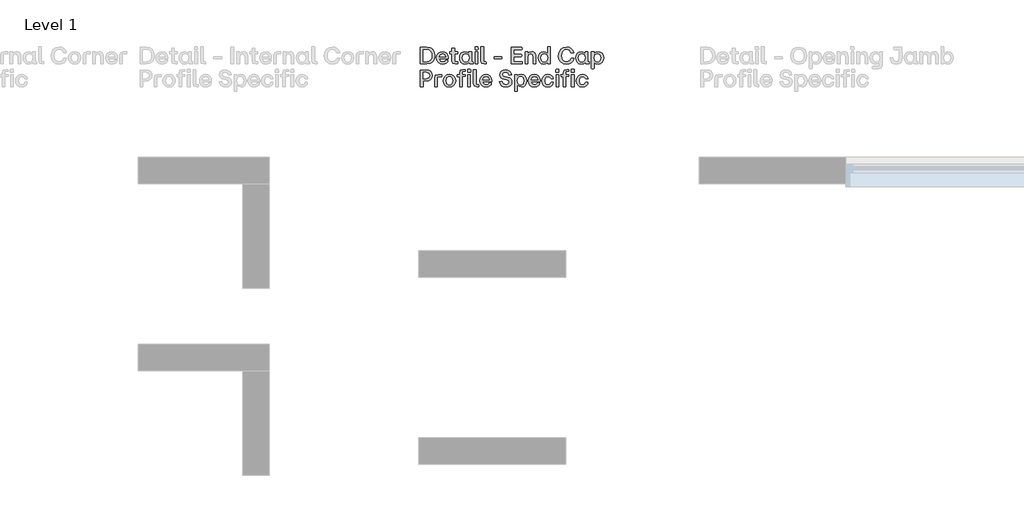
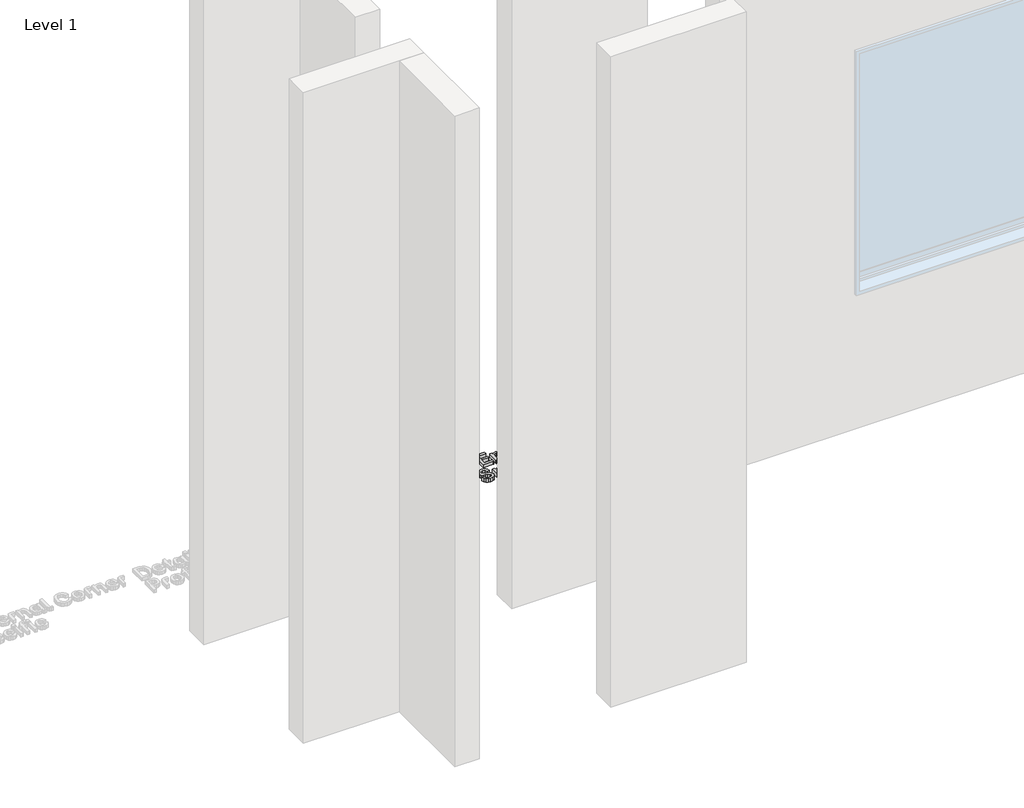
# One storey, part 42 of 64: 1 proxy.
"""IFC4 building model written with IfcOpenShell, lengths in millimetres."""

from ifc_helpers import new_model, si_unit, origin, origin_with_axes, place, context, project, spatial, polyline, outline, extrude, element, save

model = new_model("IFC4")

# Units and contexts
model_context = context("Model", 3, world=origin())
ifc_project = project(units=[si_unit("LENGTHUNIT", "METRE", prefix="MILLI")], contexts=[model_context])

# Site, building, storey
site = spatial("IfcSite", under=ifc_project)
building = spatial("IfcBuilding", under=site)
storey = spatial("IfcBuildingStorey", under=building, Name="Level 1", Elevation=0.0)

# Proxy
placement = place(None, origin())
element("IfcBuildingElementProxy", 1, Name="90mm", ObjectType="90mm", at=placement, inside=storey, context=model_context, shape_type="SweptSolid", body=[
    extrude(outline(polyline([(12110.2926176, -1500.0), (12108.9872124, -1498.7448027), (12108.9872124, -1411.3077612), (12142.5511873, -1410.002356), (12160.5475781, -1413.0054155), (12174.1193986, -1422.0145938), (12182.63905, -1436.3583606), (12185.4789338, -1455.3651852), (12182.648464, -1474.2025582), (12174.1570545, -1488.2890095), (12160.594648, -1497.0722524), (12142.5511873, -1500.0), (12110.2926176, -1500.0)]), holes=[polyline([(12123.7985402, -1487.3727155), (12141.6725492, -1487.3727155), (12153.8950326, -1485.311054), (12162.9481429, -1479.1260695), (12168.5494607, -1469.0625254), (12170.4165666, -1455.3651852), (12168.5431847, -1441.5109454), (12162.923039, -1431.1775339), (12153.8636527, -1424.7477859), (12141.6725492, -1422.6045366), (12123.7985402, -1422.6045366), (12123.7985402, -1487.3727155)])]), origin_with_axes(), (0.0, 0.0, 1.0), 20.0),
    extrude(outline(polyline([(12227.628458, -1500.7531184), (12214.0409476, -1498.4843493), (12203.5035666, -1491.6780421), (12196.7443293, -1481.0622112), (12194.4912502, -1467.3648711), (12196.7349153, -1453.5012173), (12203.4659107, -1442.7881086), (12213.9938777, -1435.9347315), (12227.628458, -1433.6502725), (12240.1584647, -1435.9033516), (12249.7324819, -1442.6625889), (12255.8044987, -1453.3129377), (12257.8285043, -1467.2393514), (12257.8285043, -1470.6785919), (12256.573307, -1472.009101), (12209.1268503, -1472.009101), (12214.6497183, -1484.6865934), (12227.628458, -1489.2053035), (12238.0465953, -1486.9082925), (12243.4439436, -1480.4691305), (12244.8246606, -1479.4147648), (12256.1967478, -1479.4147648), (12254.1633282, -1488.7314665), (12247.8120301, -1495.1925945), (12238.8248176, -1499.3629874), (12227.628458, -1500.7531184)]), holes=[polyline([(12209.2523701, -1461.5909637), (12243.8205028, -1461.5909637), (12239.0633051, -1449.6289337), (12227.628458, -1445.2733992), (12214.8631018, -1449.4155502), (12209.2523701, -1461.5909637)])]), origin_with_axes(), (0.0, 0.0, 1.0), 20.0),
    extrude(outline(polyline([(12296.6140998, -1500.0), (12282.731618, -1495.2302504), (12277.9618684, -1481.3477686), (12277.9618684, -1445.7754781), (12266.7906127, -1445.7754781), (12265.4852076, -1435.7339), (12266.7906127, -1434.4787027), (12277.9618684, -1434.4787027), (12277.9618684, -1416.45407), (12279.2170657, -1415.1486648), (12290.9657121, -1415.1486648), (12292.2209094, -1416.45407), (12292.2209094, -1434.4787027), (12308.0363949, -1434.4787027), (12309.3418001, -1435.7339), (12309.3418001, -1444.444969), (12292.2209094, -1445.7754781), (12292.2209094, -1488.7032246), (12308.0363949, -1488.7032246), (12309.3418001, -1489.9584219), (12309.3418001, -1498.7448027), (12308.0363949, -1500.0), (12296.6140998, -1500.0)])), origin_with_axes(), (0.0, 0.0, 1.0), 20.0),
    extrude(outline(polyline([(12347.2738615, -1500.7531184), (12335.3243835, -1498.4843493), (12326.0861316, -1491.6780421), (12320.1741525, -1481.0622112), (12318.2034928, -1467.3648711), (12320.1741525, -1453.5325972), (12326.0861316, -1442.8132125), (12335.3243835, -1435.9410075), (12347.2738615, -1433.6502725), (12359.1856835, -1436.5372262), (12368.160344, -1444.444969), (12368.7377347, -1435.7339), (12369.992932, -1434.4787027), (12381.6662665, -1434.4787027), (12382.9716717, -1435.7339), (12382.9716717, -1488.7032246), (12390.0760882, -1488.7032246), (12391.3312855, -1489.9584219), (12391.3312855, -1498.7448027), (12390.0760882, -1500.0), (12380.536589, -1500.0), (12372.1581473, -1497.6465051), (12369.3653333, -1490.5860205), (12359.7254183, -1497.8661646), (12347.2738615, -1500.7531184)]), holes=[polyline([(12332.7135732, -1467.3648711), (12337.6716024, -1483.3686362), (12343.5365116, -1487.7461367), (12351.2151809, -1489.2053035), (12358.7714684, -1487.7524127), (12364.470064, -1483.3937402), (12369.2398136, -1467.3648711), (12364.4324081, -1451.1728263), (12358.7243985, -1446.748256), (12351.2151809, -1445.2733992), (12343.5365116, -1446.748256), (12337.6716024, -1451.1728263), (12332.7135732, -1467.3648711)])]), origin_with_axes(), (0.0, 0.0, 1.0), 20.0),
    extrude(outline(polyline([(12403.6824266, -1500.0), (12402.3770214, -1498.7448027), (12402.3770214, -1435.7339), (12403.6824266, -1434.4787027), (12415.3557612, -1434.4787027), (12416.6109584, -1435.7339), (12416.6109584, -1498.7448027), (12415.3557612, -1500.0), (12403.6824266, -1500.0)])), origin_with_axes(), (0.0, 0.0, 1.0), 20.0),
    extrude(outline(polyline([(12401.3728636, -1421.8514182), (12401.3728636, -1407.9940404), (12402.6280609, -1406.6635313), (12416.4854387, -1406.6635313), (12417.8159478, -1421.8514182), (12416.4854387, -1423.1066155), (12402.6280609, -1423.1066155), (12401.3728636, -1421.8514182)])), origin_with_axes(), (0.0, 0.0, 1.0), 20.0),
    extrude(outline(polyline([(12451.5305464, -1500.0), (12437.6731686, -1495.2302504), (12432.903419, -1481.3477686), (12432.903419, -1408.7471587), (12445.8821587, -1407.4166496), (12447.137356, -1408.7471587), (12447.137356, -1488.7032246), (12459.1370418, -1488.7032246), (12460.3922391, -1489.9584219), (12460.3922391, -1498.7448027), (12459.1370418, -1500.0), (12451.5305464, -1500.0)])), origin_with_axes(), (0.0, 0.0, 1.0), 20.0),
    extrude(outline(polyline([(12505.1776775, -1472.887739), (12503.9224803, -1471.5572299), (12503.9224803, -1461.5909637), (12505.1776775, -1460.2604546), (12543.7875455, -1460.2604546), (12545.0427427, -1461.5909637), (12545.0427427, -1471.5572299), (12543.7875455, -1472.887739), (12505.1776775, -1472.887739)])), origin_with_axes(), (0.0, 0.0, 1.0), 20.0),
    extrude(outline(polyline([(12595.5016728, -1500.0), (12594.1962677, -1498.7448027), (12594.1962677, -1411.3077612), (12652.3119011, -1410.002356), (12653.6173063, -1421.3493393), (12652.3119011, -1422.6045366), (12609.0075954, -1422.6045366), (12609.0075954, -1448.4616002), (12649.7261947, -1448.4616002), (12651.0567038, -1449.7167975), (12651.0567038, -1459.7583756), (12649.7261947, -1461.0135729), (12609.0075954, -1461.0135729), (12609.0075954, -1487.3727155), (12653.6173063, -1487.3727155), (12654.8725035, -1488.7032246), (12654.8725035, -1498.7448027), (12653.6173063, -1500.0), (12595.5016728, -1500.0)])), origin_with_axes(), (0.0, 0.0, 1.0), 20.0),
    extrude(outline(polyline([(12670.3867417, -1500.0), (12669.0813366, -1498.7448027), (12669.0813366, -1435.7339), (12670.3867417, -1434.4787027), (12681.4324777, -1434.4787027), (12682.6876749, -1435.7339), (12682.6876749, -1444.444969), (12691.9824107, -1436.3489466), (12703.9005087, -1433.6502725), (12713.8259811, -1435.5330684), (12721.1092633, -1441.1814561), (12725.5809035, -1450.4573639), (12727.0714503, -1463.2227201), (12727.0714503, -1498.7448027), (12725.7409412, -1500.0), (12714.0676066, -1500.0), (12712.7622014, -1498.7448027), (12712.7622014, -1463.2227201), (12709.2476491, -1449.942733), (12698.1391533, -1445.7754781), (12686.9302417, -1450.0054929), (12683.3152736, -1463.2227201), (12683.3152736, -1498.7448027), (12682.0600763, -1500.0), (12670.3867417, -1500.0)])), origin_with_axes(), (0.0, 0.0, 1.0), 20.0),
    extrude(outline(polyline([(12768.2168167, -1500.7531184), (12756.2673387, -1498.4843493), (12747.0290868, -1491.6780421), (12741.1171077, -1481.0622112), (12739.146448, -1467.3648711), (12741.1171077, -1453.5325972), (12747.0290868, -1442.8132125), (12756.2673387, -1435.9410075), (12768.2168167, -1433.6502725), (12780.1286387, -1436.5372262), (12789.1032992, -1444.444969), (12789.6806899, -1408.7471587), (12790.9358872, -1407.4166496), (12802.6092218, -1407.4166496), (12803.9146269, -1498.7448027), (12802.6092218, -1500.0), (12791.5634858, -1500.0), (12790.3082886, -1498.7448027), (12790.3082886, -1490.0839416), (12780.6683735, -1497.8661646), (12768.2168167, -1500.7531184)]), holes=[polyline([(12753.6565284, -1467.3648711), (12758.6145576, -1483.3686362), (12764.4794668, -1487.7461367), (12772.1581361, -1489.2053035), (12779.7144236, -1487.7524127), (12785.4130192, -1483.3937402), (12790.1827688, -1467.3648711), (12785.3753633, -1451.1728263), (12779.6673537, -1446.748256), (12772.1581361, -1445.2733992), (12764.4794668, -1446.748256), (12758.6145576, -1451.1728263), (12753.6565284, -1467.3648711)])]), origin_with_axes(), (0.0, 0.0, 1.0), 20.0),
    extrude(outline(polyline([(12891.100629, -1500.7531184), (12873.0885483, -1497.6684711), (12859.2186185, -1488.4145292), (12850.3694777, -1473.8887589), (12847.4197642, -1454.988626), (12850.3945817, -1436.4054305), (12859.3190343, -1421.8263143), (12873.214068, -1412.3935068), (12891.100629, -1409.2492376), (12905.0490087, -1411.3265891), (12916.6187895, -1417.5586436), (12924.9376093, -1427.2424905), (12929.1331062, -1439.6752194), (12915.9535349, -1441.1312482), (12914.52261, -1440.0015707), (12906.6587992, -1426.3889563), (12891.100629, -1421.8514182), (12879.176255, -1424.0731174), (12870.1137307, -1430.7382148), (12864.3900312, -1441.244216), (12862.4821314, -1454.988626), (12864.3806172, -1468.9464196), (12870.0760748, -1479.4398688), (12879.1291851, -1486.0108265), (12891.100629, -1488.2011457), (12906.9663225, -1483.7263674), (12915.4012481, -1470.3020327), (12916.832173, -1469.1221472), (12928.756547, -1469.1221472), (12925.5840359, -1482.8791093), (12917.1208684, -1492.4688164), (12905.362808, -1498.6820429), (12891.100629, -1500.7531184)])), origin_with_axes(), (0.0, 0.0, 1.0), 20.0),
    extrude(outline(polyline([(12969.0483793, -1500.7531184), (12957.0989013, -1498.4843493), (12947.8606494, -1491.6780421), (12941.9486703, -1481.0622112), (12939.9780106, -1467.3648711), (12941.9486703, -1453.5325972), (12947.8606494, -1442.8132125), (12957.0989013, -1435.9410075), (12969.0483793, -1433.6502725), (12980.9602013, -1436.5372262), (12989.9348618, -1444.444969), (12990.5122525, -1435.7339), (12991.7674498, -1434.4787027), (13003.4407844, -1434.4787027), (13004.7461895, -1435.7339), (13004.7461895, -1488.7032246), (13011.850606, -1488.7032246), (13013.1058033, -1489.9584219), (13013.1058033, -1498.7448027), (13011.850606, -1500.0), (13002.3111068, -1500.0), (12993.9326651, -1497.6465051), (12991.1398512, -1490.5860205), (12981.4999362, -1497.8661646), (12969.0483793, -1500.7531184)]), holes=[polyline([(12954.488091, -1467.3648711), (12959.4461202, -1483.3686362), (12965.3110294, -1487.7461367), (12972.9896987, -1489.2053035), (12980.5459862, -1487.7524127), (12986.2445818, -1483.3937402), (12991.0143314, -1467.3648711), (12986.2069259, -1451.1728263), (12980.4989163, -1446.748256), (12972.9896987, -1445.2733992), (12965.3110294, -1446.748256), (12959.4461202, -1451.1728263), (12954.488091, -1467.3648711)])]), origin_with_axes(), (0.0, 0.0, 1.0), 20.0),
    extrude(outline(polyline([(13025.4569444, -1524.4010349), (13024.1515393, -1523.1458376), (13024.1515393, -1435.7339), (13025.4569444, -1434.4787027), (13036.5026804, -1434.4787027), (13037.7578776, -1435.7339), (13037.7578776, -1444.3194493), (13047.3977926, -1436.5372262), (13059.8493495, -1433.6502725), (13071.7988275, -1435.9253176), (13081.0370794, -1442.7504527), (13086.9490585, -1453.3913875), (13088.9197182, -1467.1138316), (13086.9490585, -1480.9210016), (13081.0370794, -1491.6152823), (13071.7988275, -1498.4686593), (13059.8493495, -1500.7531184), (13047.9375275, -1497.8661646), (13038.962867, -1489.9584219), (13038.3854763, -1523.1458376), (13037.130279, -1524.4010349), (13025.4569444, -1524.4010349)]), holes=[polyline([(13037.8833974, -1467.1138316), (13042.6908029, -1483.3058764), (13048.3988125, -1487.7304467), (13055.9080301, -1489.2053035), (13063.5866994, -1487.7304467), (13069.4516086, -1483.3058764), (13074.4096378, -1467.1138316), (13069.4516086, -1451.1100665), (13063.5866994, -1446.732566), (13055.9080301, -1445.2733992), (13048.3517426, -1446.723152), (13042.653147, -1451.0724106), (13037.8833974, -1467.1138316)])]), origin_with_axes(), (0.0, 0.0, 1.0), 20.0),
    extrude(outline(polyline([(12110.2926176, -1622.13305), (12108.9872124, -1620.8778528), (12108.9872124, -1533.4408112), (12140.1161046, -1532.135406), (12154.0174144, -1534.0338919), (12164.3414119, -1539.7293495), (12170.7429179, -1548.9236695), (12172.8767533, -1561.3187425), (12170.7429179, -1573.7138155), (12164.3414119, -1582.9081354), (12154.0174144, -1588.603593), (12140.1161046, -1590.5020789), (12123.7985402, -1590.5020789), (12123.7985402, -1620.8778528), (12122.4680311, -1622.13305), (12110.2926176, -1622.13305)]), holes=[polyline([(12123.7985402, -1577.8747944), (12140.1161046, -1577.8747944), (12153.5969233, -1573.7954033), (12157.9901137, -1561.3061905), (12153.5969233, -1548.8169777), (12140.1161046, -1544.7375866), (12123.7985402, -1544.7375866), (12123.7985402, -1577.8747944)])]), origin_with_axes(), (0.0, 0.0, 1.0), 20.0),
    extrude(outline(polyline([(12186.1065325, -1622.13305), (12184.8513352, -1620.8778528), (12184.8513352, -1575.1886723), (12189.6210848, -1561.3438464), (12203.4784626, -1556.6117527), (12221.7541348, -1556.6117527), (12223.0093321, -1557.86695), (12223.0093321, -1567.4064492), (12221.7541348, -1568.6616465), (12199.0852722, -1568.6616465), (12199.0852722, -1620.8778528), (12197.8300749, -1622.13305), (12186.1065325, -1622.13305)])), origin_with_axes(), (0.0, 0.0, 1.0), 20.0),
    extrude(outline(polyline([(12264.2049064, -1622.8861684), (12250.9782652, -1620.5797434), (12240.519334, -1613.6604685), (12233.7130268, -1603.0069817), (12231.4442577, -1589.4979211), (12233.7193028, -1575.9009967), (12240.5444379, -1565.1345422), (12251.0096451, -1558.1211274), (12264.2049064, -1555.7833225), (12277.5570673, -1558.1211274), (12288.0913103, -1565.1345422), (12294.9352734, -1575.9009967), (12297.2165945, -1589.4979211), (12294.9352734, -1603.0069817), (12288.0913103, -1613.6604685), (12277.5570673, -1620.5797434), (12264.2049064, -1622.8861684)]), holes=[polyline([(12245.9543381, -1589.4979211), (12250.8119515, -1605.5267902), (12256.588997, -1609.8854627), (12264.2049064, -1611.3383535), (12271.9024036, -1609.8791867), (12277.7735888, -1605.5016862), (12282.731618, -1589.4979211), (12277.7986928, -1573.3058764), (12271.9337835, -1568.881306), (12264.2049064, -1567.4064492), (12256.588997, -1568.881306), (12250.8119515, -1573.3058764), (12245.9543381, -1589.4979211)])]), origin_with_axes(), (0.0, 0.0, 1.0), 20.0),
    extrude(outline(polyline([(12362.3111247, -1620.8778528), (12362.3111247, -1557.86695), (12363.6416338, -1556.6117527), (12375.3149684, -1556.6117527), (12376.6203735, -1557.86695), (12376.6203735, -1620.8778528), (12375.3149684, -1622.13305), (12363.6416338, -1622.13305), (12362.3111247, -1620.8778528)])), origin_with_axes(), (0.0, 0.0, 1.0), 20.0),
    extrude(outline(polyline([(12319.3833782, -1622.13305), (12318.1281809, -1620.8778528), (12318.1281809, -1567.9085281), (12306.9569253, -1567.9085281), (12305.6515201, -1557.86695), (12306.9569253, -1556.6117527), (12318.1281809, -1556.6117527), (12318.1281809, -1548.201931), (12322.8979305, -1534.3194493), (12336.7804123, -1529.5496997), (12348.2027074, -1529.5496997), (12349.5081126, -1539.5912778), (12332.3872219, -1540.9217869), (12332.3872219, -1556.6117527), (12348.2027074, -1556.6117527), (12349.5081126, -1557.86695), (12349.5081126, -1566.578019), (12332.3872219, -1567.9085281), (12332.3872219, -1620.8778528), (12331.1320246, -1622.13305), (12319.3833782, -1622.13305)])), origin_with_axes(), (0.0, 0.0, 1.0), 20.0),
    extrude(outline(polyline([(12361.3069669, -1543.9844682), (12361.3069669, -1530.1270904), (12362.5621642, -1528.7965813), (12376.4948538, -1528.7965813), (12377.7500511, -1530.1270904), (12377.7500511, -1543.9844682), (12376.4948538, -1545.2396655), (12362.5621642, -1545.2396655), (12361.3069669, -1543.9844682)])), origin_with_axes(), (0.0, 0.0, 1.0), 20.0),
    extrude(outline(polyline([(12411.3642339, -1622.13305), (12397.506856, -1617.3633004), (12392.7371064, -1603.4808186), (12392.7371064, -1530.8802088), (12405.7158462, -1529.5496997), (12406.9710434, -1530.8802088), (12406.9710434, -1610.8362746), (12418.9707293, -1610.8362746), (12420.2259266, -1612.0914719), (12420.2259266, -1620.8778528), (12418.9707293, -1622.13305), (12411.3642339, -1622.13305)])), origin_with_axes(), (0.0, 0.0, 1.0), 20.0),
    extrude(outline(polyline([(12460.5930707, -1622.8861684), (12447.0055602, -1620.6173993), (12436.4681792, -1613.8110921), (12429.7089419, -1603.1952613), (12427.4558628, -1589.4979211), (12429.6995279, -1575.6342673), (12436.4305233, -1564.9211586), (12446.9584903, -1558.0677815), (12460.5930707, -1555.7833225), (12473.1230774, -1558.0364016), (12482.6970945, -1564.7956389), (12488.7691113, -1575.4459877), (12490.7931169, -1589.3724014), (12490.7931169, -1592.8116419), (12489.5379196, -1594.142151), (12442.0914629, -1594.142151), (12447.6143309, -1606.8196434), (12460.5930707, -1611.3383535), (12471.011208, -1609.0413425), (12476.4085562, -1602.6021806), (12477.7892732, -1601.5478148), (12489.1613604, -1601.5478148), (12487.1279409, -1610.8645166), (12480.7766427, -1617.3256445), (12471.7894303, -1621.4960374), (12460.5930707, -1622.8861684)]), holes=[polyline([(12442.2169827, -1583.7240137), (12476.7851154, -1583.7240137), (12472.0279177, -1571.7619837), (12460.5930707, -1567.4064492), (12447.8277145, -1571.5486002), (12442.2169827, -1583.7240137)])]), origin_with_axes(), (0.0, 0.0, 1.0), 20.0),
    extrude(outline(polyline([(12566.8831752, -1622.8861684), (12553.1136611, -1621.0347524), (12542.4319324, -1615.4805045), (12535.1706162, -1606.5058441), (12531.6623399, -1594.3931904), (12544.917223, -1592.9371616), (12546.2226282, -1594.142151), (12552.4107507, -1606.6941236), (12566.8831752, -1610.5852352), (12579.3974919, -1607.007923), (12583.8785461, -1597.0793126), (12580.7782089, -1588.8326665), (12570.3977275, -1584.7281715), (12558.5235614, -1582.644544), (12547.5186193, -1579.3904451), (12539.6579465, -1574.0715467), (12534.9415427, -1566.6878488), (12533.3694082, -1557.2393514), (12535.3839998, -1546.397585), (12541.4277746, -1538.2231128), (12551.0802416, -1533.0924939), (12563.9209096, -1531.3822877), (12576.6548859, -1533.1144599), (12586.5897722, -1538.3109766), (12593.3803895, -1546.6643144), (12596.6815583, -1557.86695), (12583.501987, -1559.2978749), (12582.0710621, -1557.86695), (12576.2594987, -1547.1601173), (12563.9209096, -1543.7334288), (12552.1597112, -1546.8714219), (12548.1054241, -1556.034362), (12551.7203922, -1564.732879), (12563.0422715, -1569.2892451), (12574.8411258, -1571.3477686), (12585.6609263, -1574.5171417), (12593.0163822, -1579.6069666), (12597.2338451, -1586.9373187), (12598.639666, -1596.8282731), (12596.5277966, -1607.7422134), (12590.1921884, -1615.9825834), (12580.1411963, -1621.1602721), (12566.8831752, -1622.8861684)])), origin_with_axes(), (0.0, 0.0, 1.0), 20.0),
    extrude(outline(polyline([(12614.1539042, -1646.5340849), (12612.848499, -1645.2788876), (12612.848499, -1557.86695), (12614.1539042, -1556.6117527), (12625.1996401, -1556.6117527), (12626.4548374, -1557.86695), (12626.4548374, -1566.4524993), (12636.0947524, -1558.6702762), (12648.5463093, -1555.7833225), (12660.4957873, -1558.0583676), (12669.7340392, -1564.8835027), (12675.6460183, -1575.5244375), (12677.616678, -1589.2468816), (12675.6460183, -1603.0540516), (12669.7340392, -1613.7483323), (12660.4957873, -1620.6017094), (12648.5463093, -1622.8861684), (12636.6344872, -1619.9992147), (12627.6598268, -1612.0914719), (12627.082436, -1645.2788876), (12625.8272388, -1646.5340849), (12614.1539042, -1646.5340849)]), holes=[polyline([(12626.5803571, -1589.2468816), (12631.3877627, -1605.4389264), (12637.0957722, -1609.8634967), (12644.6049899, -1611.3383535), (12652.2836592, -1609.8634967), (12658.1485684, -1605.4389264), (12663.1065976, -1589.2468816), (12658.1485684, -1573.2431165), (12652.2836592, -1568.865616), (12644.6049899, -1567.4064492), (12637.0487023, -1568.856202), (12631.3501068, -1573.2054606), (12626.5803571, -1589.2468816)])]), origin_with_axes(), (0.0, 0.0, 1.0), 20.0),
    extrude(outline(polyline([(12719.2641233, -1622.8861684), (12705.6766129, -1620.6173993), (12695.1392318, -1613.8110921), (12688.3799945, -1603.1952613), (12686.1269155, -1589.4979211), (12688.3705806, -1575.6342673), (12695.1015759, -1564.9211586), (12705.629543, -1558.0677815), (12719.2641233, -1555.7833225), (12731.79413, -1558.0364016), (12741.3681471, -1564.7956389), (12747.4401639, -1575.4459877), (12749.4641695, -1589.3724014), (12749.4641695, -1592.8116419), (12748.2089722, -1594.142151), (12700.7625156, -1594.142151), (12706.2853836, -1606.8196434), (12719.2641233, -1611.3383535), (12729.6822606, -1609.0413425), (12735.0796088, -1602.6021806), (12736.4603258, -1601.5478148), (12747.8324131, -1601.5478148), (12745.7989935, -1610.8645166), (12739.4476953, -1617.3256445), (12730.4604829, -1621.4960374), (12719.2641233, -1622.8861684)]), holes=[polyline([(12700.8880353, -1583.7240137), (12735.456168, -1583.7240137), (12730.6989704, -1571.7619837), (12719.2641233, -1567.4064492), (12706.4987671, -1571.5486002), (12700.8880353, -1583.7240137)])]), origin_with_axes(), (0.0, 0.0, 1.0), 20.0),
    extrude(outline(polyline([(12791.4379661, -1622.8861684), (12777.9445955, -1620.6173993), (12767.4385944, -1613.8110921), (12760.6793571, -1603.1952613), (12758.426278, -1589.4979211), (12760.710737, -1575.9009967), (12767.5641141, -1565.1345422), (12778.1014951, -1558.1211274), (12791.4379661, -1555.7833225), (12802.4209422, -1557.3303532), (12811.3704987, -1561.971445), (12817.6841409, -1569.1543114), (12820.7593742, -1578.3266654), (12808.1320897, -1579.7073824), (12801.7054797, -1570.1678832), (12791.4379661, -1567.4064492), (12783.680847, -1568.881306), (12777.8316277, -1573.3058764), (12772.9363584, -1589.4979211), (12777.8567317, -1605.5644461), (12783.7122269, -1609.8948767), (12791.4379661, -1611.3383535), (12802.019279, -1608.7024393), (12807.3789714, -1600.1670979), (12808.7596884, -1598.9621085), (12820.1317756, -1598.9621085), (12818.12346, -1609.4712476), (12811.7470579, -1616.6980459), (12802.7033616, -1621.3391377), (12791.4379661, -1622.8861684)])), origin_with_axes(), (0.0, 0.0, 1.0), 20.0),
    extrude(outline(polyline([(12835.8719493, -1622.13305), (12834.5665442, -1620.8778528), (12834.5665442, -1557.86695), (12835.8719493, -1556.6117527), (12847.5452839, -1556.6117527), (12848.8004812, -1557.86695), (12848.8004812, -1620.8778528), (12847.5452839, -1622.13305), (12835.8719493, -1622.13305)])), origin_with_axes(), (0.0, 0.0, 1.0), 20.0),
    extrude(outline(polyline([(12833.5623863, -1543.9844682), (12833.5623863, -1530.1270904), (12834.8175836, -1528.7965813), (12848.6749614, -1528.7965813), (12850.0054705, -1543.9844682), (12848.6749614, -1545.2396655), (12834.8175836, -1545.2396655), (12833.5623863, -1543.9844682)])), origin_with_axes(), (0.0, 0.0, 1.0), 20.0),
    extrude(outline(polyline([(12873.678491, -1622.13305), (12872.4232937, -1620.8778528), (12872.4232937, -1567.9085281), (12861.252038, -1567.9085281), (12859.9466329, -1557.86695), (12861.252038, -1556.6117527), (12872.4232937, -1556.6117527), (12872.4232937, -1548.201931), (12877.1930433, -1534.3194493), (12891.0755251, -1529.5496997), (12902.4978202, -1529.5496997), (12903.8032254, -1539.5912778), (12886.6823347, -1540.9217869), (12886.6823347, -1556.6117527), (12902.4978202, -1556.6117527), (12903.8032254, -1557.86695), (12903.8032254, -1566.578019), (12886.6823347, -1567.9085281), (12886.6823347, -1620.8778528), (12885.4271374, -1622.13305), (12873.678491, -1622.13305)])), origin_with_axes(), (0.0, 0.0, 1.0), 20.0),
    extrude(outline(polyline([(12915.6020797, -1543.9844682), (12915.6020797, -1530.1270904), (12916.8572769, -1528.7965813), (12930.7899666, -1528.7965813), (12932.0451639, -1530.1270904), (12932.0451639, -1543.9844682), (12930.7899666, -1545.2396655), (12916.8572769, -1545.2396655), (12915.6020797, -1543.9844682)])), origin_with_axes(), (0.0, 0.0, 1.0), 20.0),
    extrude(outline(polyline([(12916.6062375, -1620.8778528), (12916.6062375, -1557.86695), (12917.9367466, -1556.6117527), (12929.6100812, -1556.6117527), (12930.9154863, -1557.86695), (12930.9154863, -1620.8778528), (12929.6100812, -1622.13305), (12917.9367466, -1622.13305), (12916.6062375, -1620.8778528)])), origin_with_axes(), (0.0, 0.0, 1.0), 20.0),
    extrude(outline(polyline([(12976.2030037, -1622.8861684), (12962.7096331, -1620.6173993), (12952.203632, -1613.8110921), (12945.4443947, -1603.1952613), (12943.1913156, -1589.4979211), (12945.4757746, -1575.9009967), (12952.3291517, -1565.1345422), (12962.8665327, -1558.1211274), (12976.2030037, -1555.7833225), (12987.1859798, -1557.3303532), (12996.1355363, -1561.971445), (13002.4491785, -1569.1543114), (13005.5244118, -1578.3266654), (12992.8971273, -1579.7073824), (12986.4705173, -1570.1678832), (12976.2030037, -1567.4064492), (12968.4458846, -1568.881306), (12962.5966653, -1573.3058764), (12957.701396, -1589.4979211), (12962.6217693, -1605.5644461), (12968.4772645, -1609.8948767), (12976.2030037, -1611.3383535), (12986.7843166, -1608.7024393), (12992.144009, -1600.1670979), (12993.524726, -1598.9621085), (13004.8968132, -1598.9621085), (13002.8884976, -1609.4712476), (12996.5120955, -1616.6980459), (12987.4683992, -1621.3391377), (12976.2030037, -1622.8861684)])), origin_with_axes(), (0.0, 0.0, 1.0), 20.0),
])

save(model, "model.ifc")
